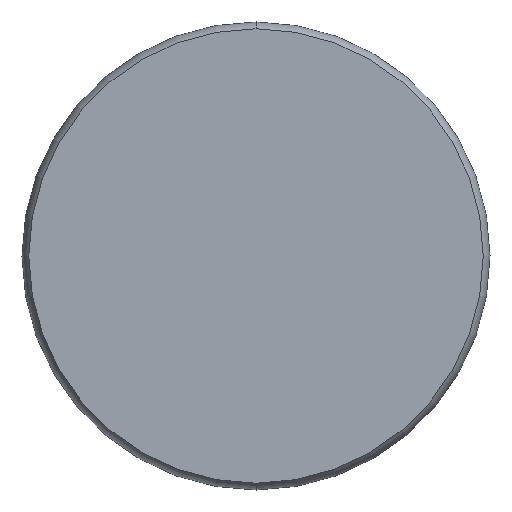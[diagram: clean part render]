
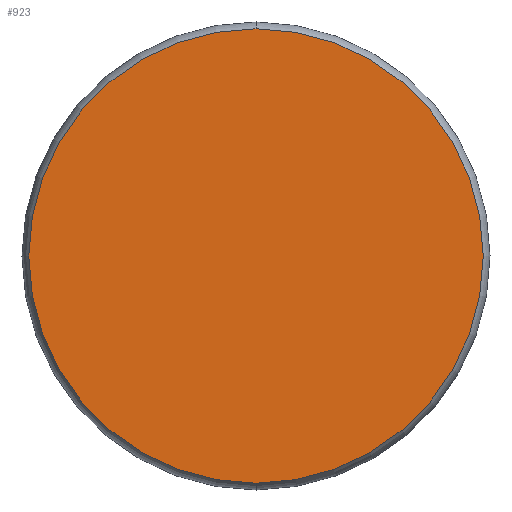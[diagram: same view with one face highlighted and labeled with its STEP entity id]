
A CAD part, front view. The second image highlights one B-rep face of the part: STEP entity #923.
In plain terms, the highlighted planar face has unit normal (0, -1, 0).
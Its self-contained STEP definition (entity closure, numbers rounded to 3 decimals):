
#87 = CARTESIAN_POINT ( 'NONE',  ( 0., 0., -5. ) ) ;
#88 = EDGE_LOOP ( 'NONE', ( #182, #946 ) ) ;
#117 = DIRECTION ( 'NONE',  ( 0., 1., 0. ) ) ;
#180 = PLANE ( 'NONE',  #480 ) ;
#182 = ORIENTED_EDGE ( 'NONE', *, *, #632, .F. ) ;
#203 = AXIS2_PLACEMENT_3D ( 'NONE', #508, #117, #412 ) ;
#260 = DIRECTION ( 'NONE',  ( 0., 1., 0. ) ) ;
#267 = DIRECTION ( 'NONE',  ( 0., 0., 1. ) ) ;
#285 = CARTESIAN_POINT ( 'NONE',  ( 0., 0., 5. ) ) ;
#354 = DIRECTION ( 'NONE',  ( 0., 1., 0. ) ) ;
#403 = CIRCLE ( 'NONE', #752, 5. ) ;
#412 = DIRECTION ( 'NONE',  ( 0., 0., 1. ) ) ;
#479 = FACE_OUTER_BOUND ( 'NONE', #88, .T. ) ;
#480 = AXIS2_PLACEMENT_3D ( 'NONE', #87, #260, #546 ) ;
#497 = VERTEX_POINT ( 'NONE', #841 ) ;
#508 = CARTESIAN_POINT ( 'NONE',  ( 0., 0., 0. ) ) ;
#546 = DIRECTION ( 'NONE',  ( 0., 0., 1. ) ) ;
#625 = CIRCLE ( 'NONE', #203, 5. ) ;
#632 = EDGE_CURVE ( 'NONE', #789, #497, #625, .T. ) ;
#639 = EDGE_CURVE ( 'NONE', #497, #789, #403, .T. ) ;
#641 = CARTESIAN_POINT ( 'NONE',  ( 0., 0., 0. ) ) ;
#752 = AXIS2_PLACEMENT_3D ( 'NONE', #641, #354, #267 ) ;
#789 = VERTEX_POINT ( 'NONE', #285 ) ;
#841 = CARTESIAN_POINT ( 'NONE',  ( 0., 0., -5. ) ) ;
#923 = ADVANCED_FACE ( 'NONE', ( #479 ), #180, .F. ) ;
#946 = ORIENTED_EDGE ( 'NONE', *, *, #639, .F. ) ;
